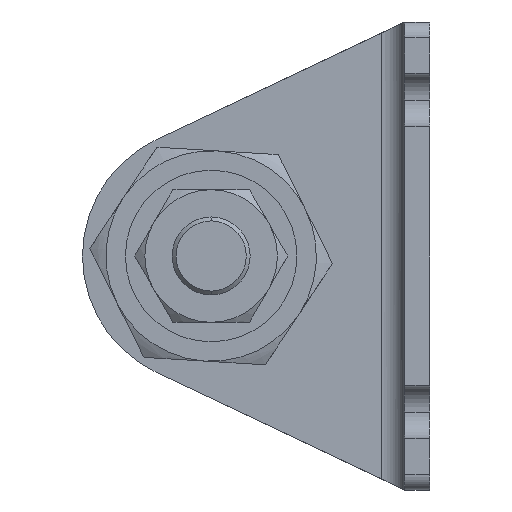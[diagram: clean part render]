
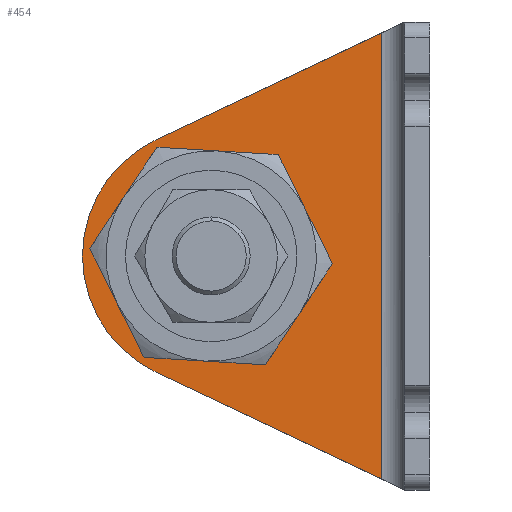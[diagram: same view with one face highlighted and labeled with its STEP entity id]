
A CAD part, left-side view. The second image highlights one B-rep face of the part: STEP entity #454.
In plain terms, the highlighted planar face has unit normal (-1, 0, 0) as drawn and (1, 0, 0) by its records, which use the part's own axes.
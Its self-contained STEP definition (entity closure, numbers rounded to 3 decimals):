
#68 = LINE ( 'NONE', #530, #3338 ) ;
#102 = CARTESIAN_POINT ( 'NONE',  ( 3.2, 26.408, -10.99 ) ) ;
#124 = CARTESIAN_POINT ( 'NONE',  ( 3.2, 35.062, -15.087 ) ) ;
#272 = ORIENTED_EDGE ( 'NONE', *, *, #368, .F. ) ;
#368 = EDGE_CURVE ( 'NONE', #493, #2852, #2345, .T. ) ;
#375 = ORIENTED_EDGE ( 'NONE', *, *, #3987, .T. ) ;
#454 = ADVANCED_FACE ( 'NONE', ( #3037, #1801 ), #636, .T. ) ;
#491 = CARTESIAN_POINT ( 'NONE',  ( 3.2, 28., -30. ) ) ;
#493 = VERTEX_POINT ( 'NONE', #3545 ) ;
#530 = CARTESIAN_POINT ( 'NONE',  ( 3.2, 6.2, -60. ) ) ;
#532 = CARTESIAN_POINT ( 'NONE',  ( 3.2, 28., -30. ) ) ;
#613 = DIRECTION ( 'NONE',  ( 0., 1., 0. ) ) ;
#621 = DIRECTION ( 'NONE',  ( 0., 1., 0. ) ) ;
#624 = ORIENTED_EDGE ( 'NONE', *, *, #1529, .T. ) ;
#636 = PLANE ( 'NONE',  #1458 ) ;
#781 = VERTEX_POINT ( 'NONE', #2372 ) ;
#835 = ORIENTED_EDGE ( 'NONE', *, *, #3015, .T. ) ;
#927 = DIRECTION ( 'NONE',  ( 1., 0., 0. ) ) ;
#977 = VERTEX_POINT ( 'NONE', #1054 ) ;
#1049 = CARTESIAN_POINT ( 'NONE',  ( 3.2, 16.5, -30. ) ) ;
#1054 = CARTESIAN_POINT ( 'NONE',  ( 3.2, 44.5, -30. ) ) ;
#1139 = VERTEX_POINT ( 'NONE', #1049 ) ;
#1190 = DIRECTION ( 'NONE',  ( 0., 0., -1. ) ) ;
#1241 = CARTESIAN_POINT ( 'NONE',  ( 3.2, 3.2, -60. ) ) ;
#1376 = EDGE_LOOP ( 'NONE', ( #3738, #1947 ) ) ;
#1458 = AXIS2_PLACEMENT_3D ( 'NONE', #2504, #2837, #621 ) ;
#1513 = EDGE_CURVE ( 'NONE', #1139, #3056, #3805, .T. ) ;
#1529 = EDGE_CURVE ( 'NONE', #2651, #781, #2718, .T. ) ;
#1740 = EDGE_CURVE ( 'NONE', #781, #977, #2399, .T. ) ;
#1801 = FACE_BOUND ( 'NONE', #1376, .T. ) ;
#1855 = CARTESIAN_POINT ( 'NONE',  ( 3.2, 28., -30. ) ) ;
#1947 = ORIENTED_EDGE ( 'NONE', *, *, #1513, .F. ) ;
#2065 = DIRECTION ( 'NONE',  ( 0., 1., 0. ) ) ;
#2325 = EDGE_CURVE ( 'NONE', #3056, #1139, #3200, .T. ) ;
#2345 = LINE ( 'NONE', #102, #2648 ) ;
#2372 = CARTESIAN_POINT ( 'NONE',  ( 3.2, 35.062, -44.913 ) ) ;
#2379 = DIRECTION ( 'NONE',  ( 1., 0., 0. ) ) ;
#2399 = CIRCLE ( 'NONE', #3132, 16.5 ) ;
#2504 = CARTESIAN_POINT ( 'NONE',  ( 3.2, 3.2, -60. ) ) ;
#2636 = CIRCLE ( 'NONE', #3082, 16.5 ) ;
#2648 = VECTOR ( 'NONE', #3874, 1000. ) ;
#2651 = VERTEX_POINT ( 'NONE', #3153 ) ;
#2718 = LINE ( 'NONE', #1241, #3368 ) ;
#2728 = CARTESIAN_POINT ( 'NONE',  ( 3.2, 39.5, -30. ) ) ;
#2749 = ORIENTED_EDGE ( 'NONE', *, *, #1740, .T. ) ;
#2837 = DIRECTION ( 'NONE',  ( 1., 0., 0. ) ) ;
#2852 = VERTEX_POINT ( 'NONE', #124 ) ;
#2915 = AXIS2_PLACEMENT_3D ( 'NONE', #1855, #927, #4065 ) ;
#3015 = EDGE_CURVE ( 'NONE', #493, #2651, #68, .T. ) ;
#3037 = FACE_OUTER_BOUND ( 'NONE', #3894, .T. ) ;
#3046 = DIRECTION ( 'NONE',  ( 1., 0., 0. ) ) ;
#3056 = VERTEX_POINT ( 'NONE', #2728 ) ;
#3082 = AXIS2_PLACEMENT_3D ( 'NONE', #3680, #3046, #3989 ) ;
#3107 = DIRECTION ( 'NONE',  ( 0., 0.904, 0.428 ) ) ;
#3132 = AXIS2_PLACEMENT_3D ( 'NONE', #491, #3705, #613 ) ;
#3153 = CARTESIAN_POINT ( 'NONE',  ( 3.2, 6.2, -58.579 ) ) ;
#3192 = AXIS2_PLACEMENT_3D ( 'NONE', #532, #2379, #2065 ) ;
#3200 = CIRCLE ( 'NONE', #3192, 11.5 ) ;
#3338 = VECTOR ( 'NONE', #1190, 1000. ) ;
#3368 = VECTOR ( 'NONE', #3107, 1000. ) ;
#3545 = CARTESIAN_POINT ( 'NONE',  ( 3.2, 6.2, -1.421 ) ) ;
#3680 = CARTESIAN_POINT ( 'NONE',  ( 3.2, 28., -30. ) ) ;
#3705 = DIRECTION ( 'NONE',  ( 1., 0., 0. ) ) ;
#3738 = ORIENTED_EDGE ( 'NONE', *, *, #2325, .F. ) ;
#3805 = CIRCLE ( 'NONE', #2915, 11.5 ) ;
#3874 = DIRECTION ( 'NONE',  ( 0., 0.904, -0.428 ) ) ;
#3894 = EDGE_LOOP ( 'NONE', ( #272, #835, #624, #2749, #375 ) ) ;
#3987 = EDGE_CURVE ( 'NONE', #977, #2852, #2636, .T. ) ;
#3989 = DIRECTION ( 'NONE',  ( 0., 1., 0. ) ) ;
#4065 = DIRECTION ( 'NONE',  ( 0., 1., 0. ) ) ;
